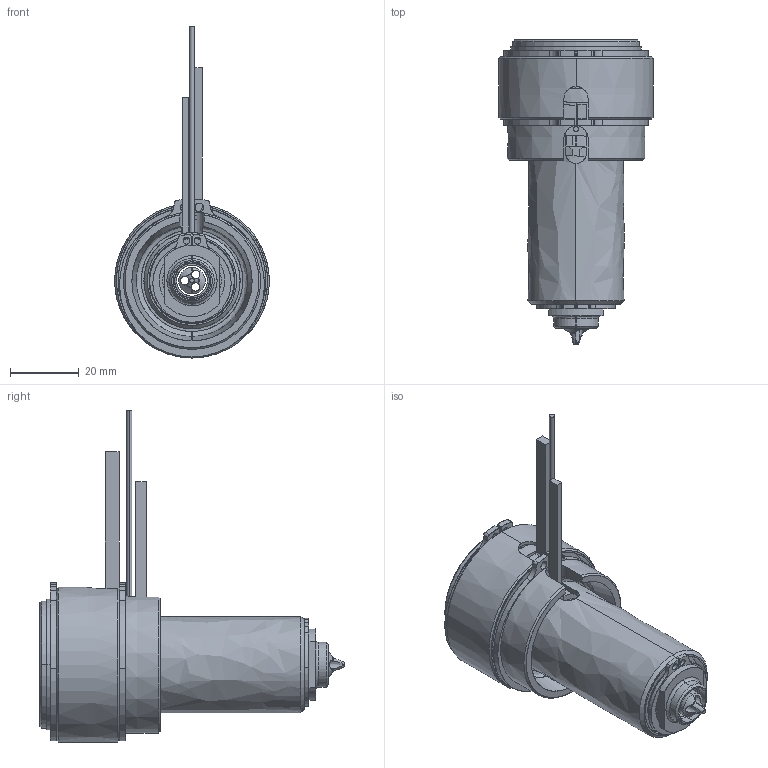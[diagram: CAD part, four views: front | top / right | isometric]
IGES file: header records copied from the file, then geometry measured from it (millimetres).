
Start section: SolidWorks IGES file using analytic representation for surfaces
Global section: file name: C:\Documents and Settings\ws-20\Desktop\TEM\UGEP4501-M-A-0 [Øf-1.31 ØC-09].IGS; native system: SolidWorks 2012; preprocessor: SolidWorks 2012; author: ws-20; date: 120424.085234; units: millimetre
Bounding box: 45 x 89.05 x 96.65 mm (x, y, z)
Surface area: 37741.9 mm2 (no closed solid volume)
Topology: 0 solids, 0 shells, 184 faces, 3511 edges, 3511 vertices
Faces by surface type: revolution 113, bspline 71
